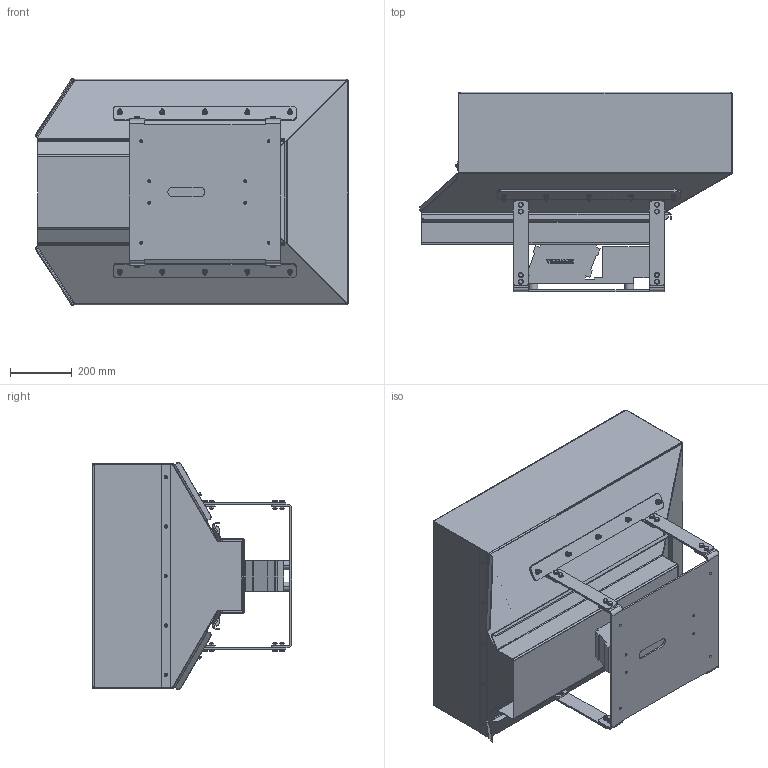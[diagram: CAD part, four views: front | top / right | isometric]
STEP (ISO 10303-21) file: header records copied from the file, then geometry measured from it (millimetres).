
FILE_DESCRIPTION (( 'STEP AP214' ), '1' );
FILE_NAME ('PD225_WIBRAMET.STEP', '2020-10-27T14:50:58', ( '' ), ( '' ), 'SwSTEP 2.0', 'SolidWorks 2017', '' );
FILE_SCHEMA (( 'AUTOMOTIVE_DESIGN' ));
Length unit declared in the file: millimetre
Products named in the file (22): PD225.10; hex nut style 1 gradeab_iso_ISO - 4032 - M5 - W - N; PD225.06; hex nut style 1 gradeab_iso_ISO - 4032 - M8 - W - N; PD225.09; PD225.02; socket set screw flat point_iso_ISO 4026 - M8 x 30-N; PD225.100; PD225_WIBRAMET; PD225.05; PD225.01; PD225.04; socket button head screw_iso_ISO 7380 - M5 x 16 - 16N; plain washer normal grade a_iso_Washer ISO 7089 - 8; PD225.07; plain washer normal grade a_iso_Washer ISO 7089 - 5; PD225.11; PD225.12_wyklejka; PD225.08; hex screw gradec_iso_ISO 4018 - M8 x 25-WN; socket countersunk head screw_iso_ISO 10642 - M8 x 20 - 20N; PL3_LONG
Assembly tree (136 placements, depth 3):
  PD225_WIBRAMET
    PL3_LONG
    PD225.01
    PD225.100
      PD225.02
      PD225.04
      PD225.06
      PD225.05
    PD225.07
    PD225.08  x2
    PD225.09  x4
    PD225.10  x2
    PD225.11
    PD225.12_wyklejka
    socket countersunk head screw_iso_ISO 10642 - M8 x 20 - 20N  x4
    plain washer normal grade a_iso_Washer ISO 7089 - 5  x10
    socket button head screw_iso_ISO 7380 - M5 x 16 - 16N  x5
    hex nut style 1 gradeab_iso_ISO - 4032 - M5 - W - N  x5
    socket set screw flat point_iso_ISO 4026 - M8 x 30-N  x10
    plain washer normal grade a_iso_Washer ISO 7089 - 8  x42
    hex nut style 1 gradeab_iso_ISO - 4032 - M8 - W - N  x26
    hex screw gradec_iso_ISO 4018 - M8 x 25-WN  x16
Bounding box: 1010.18 x 645.23 x 733.79 mm (x, y, z)
Volume: 12740793.8 mm3; surface area: 5363578.8 mm2
Topology: 140 solids, 140 shells, 3507 faces, 8209 edges, 5037 vertices
Faces by surface type: plane 1782, cylinder 840, cone 546, bspline 311, torus 18, sphere 10
Entity records: 57998 total; most frequent: CARTESIAN_POINT 21369, ORIENTED_EDGE 7710, DIRECTION 6463, EDGE_CURVE 3855, VECTOR 2547, LINE 2547, VERTEX_POINT 2476, AXIS2_PLACEMENT_3D 1958
